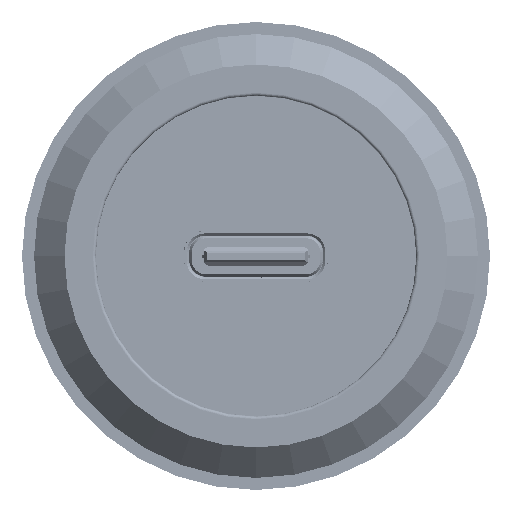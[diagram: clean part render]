
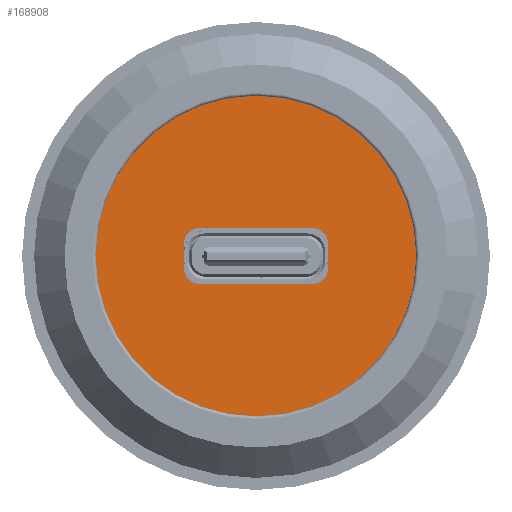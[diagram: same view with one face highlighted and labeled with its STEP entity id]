
A CAD part, front view. The second image highlights one B-rep face of the part: STEP entity #168908.
In plain terms, the highlighted planar face has unit normal (0, -1, 0).
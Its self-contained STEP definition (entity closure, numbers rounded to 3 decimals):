
#168717 = VERTEX_POINT('',#168718);
#168718 = CARTESIAN_POINT('',(-4.5,-6.5,0.75));
#168724 = EDGE_CURVE('',#168717,#168725,#168727,.T.);
#168725 = VERTEX_POINT('',#168726);
#168726 = CARTESIAN_POINT('',(-3.5,-6.5,1.75));
#168727 = CIRCLE('',#168728,1.);
#168728 = AXIS2_PLACEMENT_3D('',#168729,#168730,#168731);
#168729 = CARTESIAN_POINT('',(-3.5,-6.5,0.75));
#168730 = DIRECTION('',(0.,1.,-0.));
#168731 = DIRECTION('',(-1.,0.,0.));
#168750 = EDGE_CURVE('',#168725,#168751,#168753,.T.);
#168751 = VERTEX_POINT('',#168752);
#168752 = CARTESIAN_POINT('',(3.5,-6.5,1.75));
#168753 = LINE('',#168754,#168755);
#168754 = CARTESIAN_POINT('',(-2.25,-6.5,1.75));
#168755 = VECTOR('',#168756,1.);
#168756 = DIRECTION('',(1.,0.,0.));
#168773 = VERTEX_POINT('',#168774);
#168774 = CARTESIAN_POINT('',(4.5,-6.5,0.75));
#168780 = EDGE_CURVE('',#168751,#168773,#168781,.T.);
#168781 = CIRCLE('',#168782,1.);
#168782 = AXIS2_PLACEMENT_3D('',#168783,#168784,#168785);
#168783 = CARTESIAN_POINT('',(3.5,-6.5,0.75));
#168784 = DIRECTION('',(-0.,1.,0.));
#168785 = DIRECTION('',(1.,0.,0.));
#168798 = EDGE_CURVE('',#168773,#168799,#168801,.T.);
#168799 = VERTEX_POINT('',#168800);
#168800 = CARTESIAN_POINT('',(4.5,-6.5,-0.75));
#168801 = LINE('',#168802,#168803);
#168802 = CARTESIAN_POINT('',(4.5,-6.5,-0.875));
#168803 = VECTOR('',#168804,1.);
#168804 = DIRECTION('',(0.,0.,-1.));
#168822 = EDGE_CURVE('',#168799,#168823,#168825,.T.);
#168823 = VERTEX_POINT('',#168824);
#168824 = CARTESIAN_POINT('',(3.5,-6.5,-1.75));
#168825 = CIRCLE('',#168826,1.);
#168826 = AXIS2_PLACEMENT_3D('',#168827,#168828,#168829);
#168827 = CARTESIAN_POINT('',(3.5,-6.5,-0.75));
#168828 = DIRECTION('',(-0.,1.,0.));
#168829 = DIRECTION('',(1.,0.,0.));
#168848 = VERTEX_POINT('',#168849);
#168849 = CARTESIAN_POINT('',(-3.5,-6.5,-1.75));
#168855 = EDGE_CURVE('',#168848,#168823,#168856,.T.);
#168856 = LINE('',#168857,#168858);
#168857 = CARTESIAN_POINT('',(-2.25,-6.5,-1.75));
#168858 = VECTOR('',#168859,1.);
#168859 = DIRECTION('',(1.,0.,0.));
#168871 = VERTEX_POINT('',#168872);
#168872 = CARTESIAN_POINT('',(-4.5,-6.5,-0.75));
#168878 = EDGE_CURVE('',#168848,#168871,#168879,.T.);
#168879 = CIRCLE('',#168880,1.);
#168880 = AXIS2_PLACEMENT_3D('',#168881,#168882,#168883);
#168881 = CARTESIAN_POINT('',(-3.5,-6.5,-0.75));
#168882 = DIRECTION('',(0.,1.,-0.));
#168883 = DIRECTION('',(-1.,0.,0.));
#168896 = EDGE_CURVE('',#168717,#168871,#168897,.T.);
#168897 = LINE('',#168898,#168899);
#168898 = CARTESIAN_POINT('',(-4.5,-6.5,-0.875));
#168899 = VECTOR('',#168900,1.);
#168900 = DIRECTION('',(0.,0.,-1.));
#168908 = ADVANCED_FACE('',(#168909,#168920),#168930,.F.);
#168909 = FACE_BOUND('',#168910,.F.);
#168910 = EDGE_LOOP('',(#168911));
#168911 = ORIENTED_EDGE('',*,*,#168912,.T.);
#168912 = EDGE_CURVE('',#168913,#168913,#168915,.T.);
#168913 = VERTEX_POINT('',#168914);
#168914 = CARTESIAN_POINT('',(10.,-6.5,0.));
#168915 = CIRCLE('',#168916,10.);
#168916 = AXIS2_PLACEMENT_3D('',#168917,#168918,#168919);
#168917 = CARTESIAN_POINT('',(0.,-6.5,0.));
#168918 = DIRECTION('',(-0.,1.,0.));
#168919 = DIRECTION('',(1.,0.,0.));
#168920 = FACE_BOUND('',#168921,.F.);
#168921 = EDGE_LOOP('',(#168922,#168923,#168924,#168925,#168926,#168927,
    #168928,#168929));
#168922 = ORIENTED_EDGE('',*,*,#168724,.F.);
#168923 = ORIENTED_EDGE('',*,*,#168896,.T.);
#168924 = ORIENTED_EDGE('',*,*,#168878,.F.);
#168925 = ORIENTED_EDGE('',*,*,#168855,.T.);
#168926 = ORIENTED_EDGE('',*,*,#168822,.F.);
#168927 = ORIENTED_EDGE('',*,*,#168798,.F.);
#168928 = ORIENTED_EDGE('',*,*,#168780,.F.);
#168929 = ORIENTED_EDGE('',*,*,#168750,.F.);
#168930 = PLANE('',#168931);
#168931 = AXIS2_PLACEMENT_3D('',#168932,#168933,#168934);
#168932 = CARTESIAN_POINT('',(0.,-6.5,0.));
#168933 = DIRECTION('',(0.,1.,0.));
#168934 = DIRECTION('',(1.,0.,0.));
